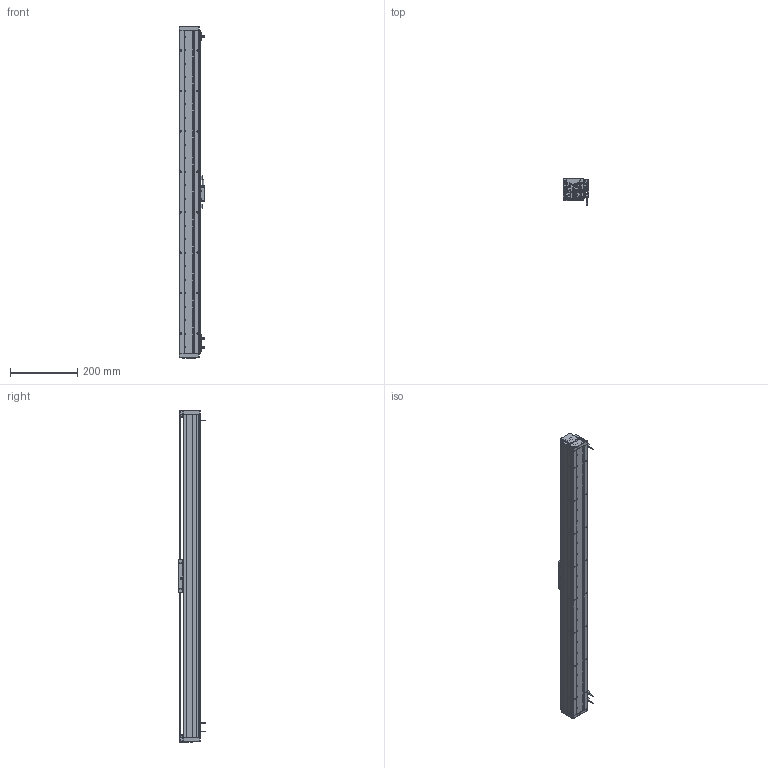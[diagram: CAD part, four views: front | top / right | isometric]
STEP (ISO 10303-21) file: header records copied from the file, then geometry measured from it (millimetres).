
FILE_DESCRIPTION (( 'STEP AP203' ), '1' );
FILE_NAME ('DA-A60-B1-T820-C010-0.2 眻盄萇儂.STEP', '2025-08-13T02:00:08', ( '' ), ( '' ), 'SwSTEP 2.0', 'SolidWorks 2019', '' );
FILE_SCHEMA (( 'CONFIG_CONTROL_DESIGN' ));
Length unit declared in the file: millimetre
Products named in the file (21): 复件 DA60-DMT-DTJ-00 读数头支架^DA-A60-B1-T-C010-0.2-N 直线电机; DA-A60-B1-T820-C010-0.2 眻盄萇儂; DA60-B1-HT-B-03 賑雄怢啣; 葩璃 AKM01-W030-TRL^DA-A60-B1-T-C010-0.2-N 眻盄萇儂; 复件 DA60-DG-H-N-00 端盖^DA-A60-B1-T-C010-0.2-N 直线电机; AU60-V 幗紩賑怢; DA60-T-002-00  裔啣; 复件 DA60-GT-T-00 底座钢轨^AU60-L 底座导轨; 葩璃 DA60-HK-DP-01 結え^AU60-V 幗紩賑怢; 复件 纯铜油杯 6x6mm^AU60-V 滚珠滑台; AU60-L 菁釱絳寢; 葩璃 PM-T45^DA-A60-B1-T-C010-0.2-N 眻盄萇儂; 复件 XD-U-02  磁栅尺^DA-A60-B1-T-C010-0.2-N 直线电机; 葩璃 DMT-010 1米m 0.2M^DA-A60-B1-T-C010-0.2-N 眻盄萇儂; 复件 DA60-B1-GT-00 滑块钢轨^DA60-YT-B1-HT-B-01 一体化滑动台板; 复件 BAKM01-W030-C1-TP-0.2 直线电机动子^DA-A60-B1-T-C010-0.2-N 直线电机; 复件 DA60-XJ-00 橡胶挡块^DA-A60-B1-T-C010-0.2-N 直线电机; 复件 DA-A60-GYP-DMT-00 光电感应片^DA-A60-B1-T-C010-0.2-N 直线电机(默认); 复件 六角薄螺母 M3^DA-A60-B1-T-C010-0.2-N 直线电机(GB_FASTENER_NUT_STNAB M3-C); DA60-YT-B1-HT-B-01 珨极趙賑雄怢啣; IU-AU60-L-00 菁釱(960)
Assembly tree (33 placements, depth 4):
  DA-A60-B1-T820-C010-0.2 眻盄萇儂
    AU60-L 菁釱絳寢
      IU-AU60-L-00 菁釱(960)
      复件 DA60-GT-T-00 底座钢轨^AU60-L 底座导轨  x2
    AU60-V 幗紩賑怢
      DA60-YT-B1-HT-B-01 珨极趙賑雄怢啣
        DA60-B1-HT-B-03 賑雄怢啣
        复件 DA60-B1-GT-00 滑块钢轨^DA60-YT-B1-HT-B-01 一体化滑动台板  x2
      葩璃 DA60-HK-DP-01 結え^AU60-V 幗紩賑怢  x2
      复件 纯铜油杯 6x6mm^AU60-V 滚珠滑台
    复件 DA-A60-GYP-DMT-00 光电感应片^DA-A60-B1-T-C010-0.2-N 直线电机(默认)  x2
    复件 DA60-DMT-DTJ-00 读数头支架^DA-A60-B1-T-C010-0.2-N 直线电机
    葩璃 DMT-010 1米m 0.2M^DA-A60-B1-T-C010-0.2-N 眻盄萇儂
    复件 BAKM01-W030-C1-TP-0.2 直线电机动子^DA-A60-B1-T-C010-0.2-N 直线电机
    复件 DA60-XJ-00 橡胶挡块^DA-A60-B1-T-C010-0.2-N 直线电机  x2
    复件 DA60-DG-H-N-00 端盖^DA-A60-B1-T-C010-0.2-N 直线电机  x2
    DA60-T-002-00  裔啣
    葩璃 AKM01-W030-TRL^DA-A60-B1-T-C010-0.2-N 眻盄萇儂
    葩璃 PM-T45^DA-A60-B1-T-C010-0.2-N 眻盄萇儂  x3
    复件 XD-U-02  磁栅尺^DA-A60-B1-T-C010-0.2-N 直线电机
    复件 六角薄螺母 M3^DA-A60-B1-T-C010-0.2-N 直线电机(GB_FASTENER_NUT_STNAB M3-C)  x6
Bounding box: 76.95 x 80 x 984 mm (x, y, z)
Volume: 2001912.7 mm3; surface area: 716625.5 mm2
Topology: 35 solids, 37 shells, 3027 faces, 7856 edges, 4781 vertices
Faces by surface type: cylinder 1182, plane 1011, bspline 577, cone 248, torus 8, sphere 1
Entity records: 77557 total; most frequent: CARTESIAN_POINT 24754, ORIENTED_EDGE 10968, DIRECTION 9969, EDGE_CURVE 5484, AXIS2_PLACEMENT_3D 3582, VERTEX_POINT 3452, LINE 2805, VECTOR 2805
